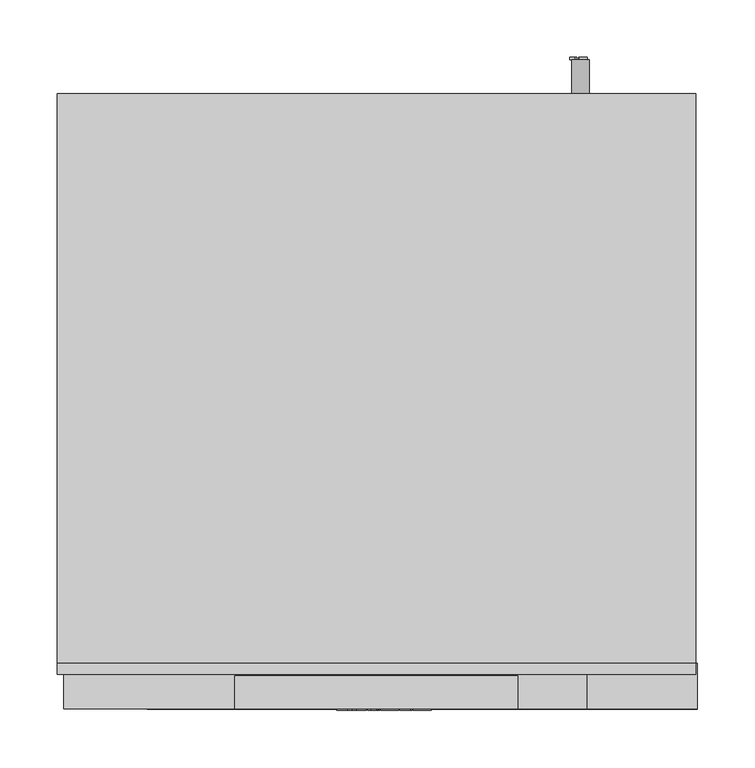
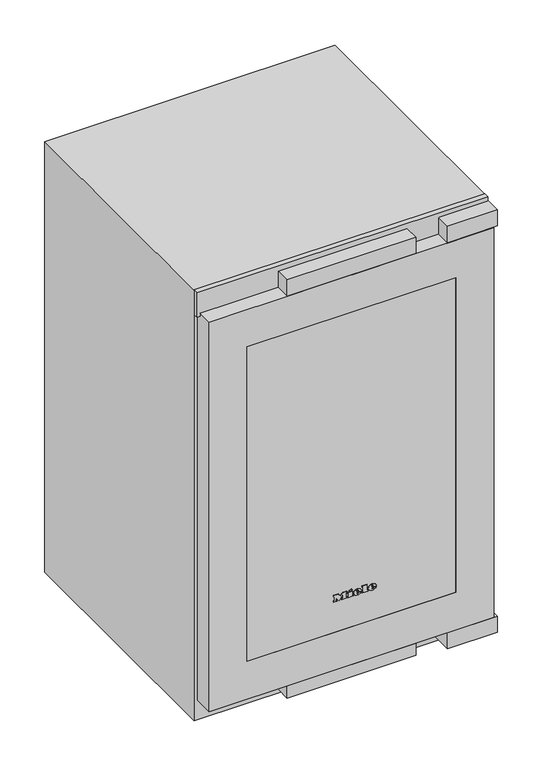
"""IFC4 building model written with IfcOpenShell, lengths in millimetres: proxy geometry, 12364290_EU1_KWT6422i-1 : 36642202_EU1_12364290_KWT6422i-1."""

from ifc_helpers import new_model, si_unit, point, frame, frame_2d, origin, place, context, project, spatial, polyline, circle_curve, ellipse_curve, trimmed, segment, composite_curve, outline, extrude, faceted_brep, source, transform, mapped, element, save
from ifc_brep_helpers import plane_surface, cylinder_surface, revolved_surface, extruded_surface, advanced_brep


def specialty_equipment_7821c6c4(model_context):
    return source(origin(), model_context, "Body", "SolidModel", [
        advanced_brep(
        [(38.5659113, -1.0, 182.5474288), (38.5659113, -1.0, 183.9109288), (47.5974113, -1.0, 183.9109288), (31.8834113, -1.0, 183.9109288), (35.5959113, -1.0, 179.3479288), (47.3679113, -1.0, 182.5474288), (43.2909113, -1.0, 182.5474288), (40.0779113, -1.0, 181.0354288), (38.5659113, -1.0, 185.6389288), (38.5659113, -1.0, 187.1104288), (40.8744113, -1.0, 187.1104288), (40.8744113, -1.0, 185.6389288), (38.5659113, 0.0, 182.5474288), (40.0779113, 0.0, 181.0354288), (43.2909113, 0.0, 182.5474288), (47.3679113, 0.0, 182.5474288), (35.5959113, 0.0, 179.3479288), (31.8834113, 0.0, 183.9109288), (47.5974113, 0.0, 183.9109288), (38.5659113, 0.0, 183.9109288), (38.5659113, 0.0, 185.6389288), (40.8744113, 0.0, 185.6389288), (40.8744113, 0.0, 187.1104288), (38.5659113, 0.0, 187.1104288)],
        [
            (0, 1),
            (1, 2),
            (2, 3, ellipse_curve(frame((39.7404113, -1.0, 183.9109288), z_axis=(0.0, -1.0, 0.0), x_axis=(-1.0, 0.0, 0.0)), 7.857, 6.4935)),
            (3, 4, circle_curve(frame((37.1079849, -1.0, 184.3699288), z_axis=(0.0, -1.0, 0.0), x_axis=(0.0, 0.0, -1.0)), 5.2446974)),
            (4, 5, circle_curve(frame((39.5831254, -1.0, 187.9339288), z_axis=(0.0, -1.0, 0.0), x_axis=(0.0, 0.0, -1.0)), 9.46664)),
            (5, 6),
            (6, 7, circle_curve(frame((40.737823, -1.0, 183.8029288), z_axis=(0.0, 1.0, 0.0), x_axis=(0.0, 0.0, -1.0)), 2.8450905)),
            (7, 0, circle_curve(frame((40.0779113, -1.0, 182.5474288), z_axis=(0.0, 1.0, 0.0), x_axis=(0.0, 0.0, -1.0)), 1.512)),
            (8, 9),
            (9, 10, circle_curve(frame((39.7201613, -1.0, 187.1104288), z_axis=(0.0, 1.0, 0.0), x_axis=(0.0, 0.0, -1.0)), 1.15425)),
            (10, 11),
            (11, 8),
            (12, 13, circle_curve(frame((40.0779113, 0.0, 182.5474288), z_axis=(0.0, -1.0, 0.0), x_axis=(0.0, 0.0, -1.0)), 1.512)),
            (13, 14, circle_curve(frame((40.737823, 0.0, 183.8029288), z_axis=(0.0, -1.0, 0.0), x_axis=(0.0, 0.0, -1.0)), 2.8450905)),
            (14, 15),
            (15, 16, circle_curve(frame((39.5831254, 0.0, 187.9339288), z_axis=(0.0, 1.0, 0.0), x_axis=(0.0, 0.0, -1.0)), 9.46664)),
            (16, 17, circle_curve(frame((37.1079849, 0.0, 184.3699288), z_axis=(0.0, 1.0, 0.0), x_axis=(0.0, 0.0, -1.0)), 5.2446974)),
            (17, 18, ellipse_curve(frame((39.7404113, 0.0, 183.9109288), z_axis=(0.0, 1.0, 0.0), x_axis=(-1.0, 0.0, 0.0)), 7.857, 6.4935)),
            (18, 19),
            (19, 12),
            (20, 21),
            (21, 22),
            (22, 23, circle_curve(frame((39.7201613, 0.0, 187.1104288), z_axis=(0.0, -1.0, 0.0), x_axis=(0.0, 0.0, -1.0)), 1.15425)),
            (23, 20),
            (0, 12),
            (19, 1),
            (18, 2),
            (5, 15),
            (14, 6),
            (17, 3),
            (13, 7),
            (16, 4),
            (8, 20),
            (23, 9),
            (22, 10),
            (21, 11),
        ],
        [
            plane_surface(frame((38.5659113, -1.0, 183.9109288), z_axis=(0.0, -1.0, 0.0), x_axis=(0.0, 0.0, 1.0))),
            plane_surface(frame((38.5659113, 0.0, 183.9109288), z_axis=(0.0, 1.0, 0.0), x_axis=(0.0, 0.0, -1.0))),
            plane_surface(frame((38.5659113, -1.0, 182.5474288), z_axis=(1.0, 0.0, 0.0), x_axis=(0.0, 1.0, 0.0))),
            plane_surface(frame((38.5659113, -1.0, 183.9109288), z_axis=(0.0, 0.0, -1.0), x_axis=(0.0, 1.0, 0.0))),
            plane_surface(frame((47.3679113, -1.0, 182.5474288), z_axis=(0.0, 0.0, 1.0), x_axis=(0.0, 1.0, 0.0))),
            extruded_surface(trimmed(ellipse_curve(frame((39.7404113, 1.0, 183.9109288), z_axis=(0.0, -1.0, 0.0), x_axis=(-1.0, 0.0, 0.0)), 7.857, 6.4935), [point((47.5974113, 1.0, 183.9109288))], [point((31.8834113, 1.0, 183.9109288))], True, "CARTESIAN"), (0.0, -1.0, 0.0), 1.0),
            revolved_surface(polyline([(40.737823, 0.0, 180.9578383), (40.737823, -1.0, 180.9578383)]), (40.737823, 0.0, 183.8029288), (0.0, 1.0, 0.0)),
            revolved_surface(polyline([(40.0779113, 0.0, 181.0354288), (40.0779113, -1.0, 181.0354288)]), (40.0779113, 0.0, 182.5474288), (0.0, 1.0, 0.0)),
            cylinder_surface(frame((37.1079849, 0.0, 184.3699288), z_axis=(0.0, -1.0, 0.0), x_axis=(0.0, 0.0, -1.0)), 5.2446974),
            cylinder_surface(frame((39.5831254, 0.0, 187.9339288), z_axis=(0.0, -1.0, 0.0), x_axis=(0.0, 0.0, -1.0)), 9.46664),
            plane_surface(frame((38.5659113, -1.0, 185.6389288), z_axis=(1.0, 0.0, 0.0), x_axis=(0.0, 1.0, 0.0))),
            revolved_surface(polyline([(39.7201613, 0.0, 185.9561788), (39.7201613, -1.0, 185.9561788)]), (39.7201613, 0.0, 187.1104288), (0.0, 1.0, 0.0)),
            plane_surface(frame((40.8744113, -1.0, 187.1104288), z_axis=(-1.0, 0.0, 0.0), x_axis=(0.0, 1.0, 0.0))),
            plane_surface(frame((40.8744113, -1.0, 185.6389288), z_axis=(0.0, 0.0, 1.0), x_axis=(0.0, 1.0, 0.0))),
        ],
        [
            (0, [[1, 2, 3, 4, 5, 6, 7, 8], [9, 10, 11, 12]]),
            (1, [[13, 14, 15, 16, 17, 18, 19, 20], [21, 22, 23, 24]]),
            (2, [[-1, 25, -20, 26]]),
            (3, [[-2, -26, -19, 27]]),
            (4, [[-6, 28, -15, 29]]),
            (5, [[-3, -27, -18, 30]]),
            (6, [[-7, -29, -14, 31]]),
            (7, [[-8, -31, -13, -25]]),
            (8, [[-4, -30, -17, 32]]),
            (9, [[-5, -32, -16, -28]]),
            (10, [[-9, 33, -24, 34]]),
            (11, [[-10, -34, -23, 35]]),
            (12, [[-11, -35, -22, 36]]),
            (13, [[-12, -36, -21, -33]]),
        ],
    ),
        advanced_brep(
        [(10.3914113, -1.0, 182.5474288), (10.3914113, -1.0, 183.9109288), (19.4229113, -1.0, 183.9109288), (3.7089113, -1.0, 183.9109288), (7.4214113, -1.0, 179.3479288), (19.1934113, -1.0, 182.5474288), (15.1164113, -1.0, 182.5474288), (11.9034113, -1.0, 181.0354288), (10.3914113, -1.0, 185.6389288), (10.3914113, -1.0, 187.1104288), (12.6999113, -1.0, 187.1104288), (12.6999113, -1.0, 185.6389288), (10.3914113, 0.0, 182.5474288), (11.9034113, 0.0, 181.0354288), (15.1164113, 0.0, 182.5474288), (19.1934113, 0.0, 182.5474288), (7.4214113, 0.0, 179.3479288), (3.7089113, 0.0, 183.9109288), (19.4229113, 0.0, 183.9109288), (10.3914113, 0.0, 183.9109288), (10.3914113, 0.0, 185.6389288), (12.6999113, 0.0, 185.6389288), (12.6999113, 0.0, 187.1104288), (10.3914113, 0.0, 187.1104288)],
        [
            (0, 1),
            (1, 2),
            (2, 3, ellipse_curve(frame((11.5659113, -1.0, 183.9109288), z_axis=(0.0, -1.0, 0.0), x_axis=(-1.0, 0.0, 0.0)), 7.857, 6.4935)),
            (3, 4, circle_curve(frame((8.9334849, -1.0, 184.3699288), z_axis=(0.0, -1.0, 0.0), x_axis=(0.0, 0.0, -1.0)), 5.2446974)),
            (4, 5, circle_curve(frame((11.4086254, -1.0, 187.9339288), z_axis=(0.0, -1.0, 0.0), x_axis=(0.0, 0.0, -1.0)), 9.46664)),
            (5, 6),
            (6, 7, circle_curve(frame((12.563323, -1.0, 183.8029288), z_axis=(0.0, 1.0, 0.0), x_axis=(0.0, 0.0, -1.0)), 2.8450905)),
            (7, 0, circle_curve(frame((11.9034113, -1.0, 182.5474288), z_axis=(0.0, 1.0, 0.0), x_axis=(0.0, 0.0, -1.0)), 1.512)),
            (8, 9),
            (9, 10, circle_curve(frame((11.5456613, -1.0, 187.1104288), z_axis=(0.0, 1.0, 0.0), x_axis=(0.0, 0.0, -1.0)), 1.15425)),
            (10, 11),
            (11, 8),
            (12, 13, circle_curve(frame((11.9034113, 0.0, 182.5474288), z_axis=(0.0, -1.0, 0.0), x_axis=(0.0, 0.0, -1.0)), 1.512)),
            (13, 14, circle_curve(frame((12.563323, 0.0, 183.8029288), z_axis=(0.0, -1.0, 0.0), x_axis=(0.0, 0.0, -1.0)), 2.8450905)),
            (14, 15),
            (15, 16, circle_curve(frame((11.4086254, 0.0, 187.9339288), z_axis=(0.0, 1.0, 0.0), x_axis=(0.0, 0.0, -1.0)), 9.46664)),
            (16, 17, circle_curve(frame((8.9334849, 0.0, 184.3699288), z_axis=(0.0, 1.0, 0.0), x_axis=(0.0, 0.0, -1.0)), 5.2446974)),
            (17, 18, ellipse_curve(frame((11.5659113, 0.0, 183.9109288), z_axis=(0.0, 1.0, 0.0), x_axis=(-1.0, 0.0, 0.0)), 7.857, 6.4935)),
            (18, 19),
            (19, 12),
            (20, 21),
            (21, 22),
            (22, 23, circle_curve(frame((11.5456613, 0.0, 187.1104288), z_axis=(0.0, -1.0, 0.0), x_axis=(0.0, 0.0, -1.0)), 1.15425)),
            (23, 20),
            (0, 12),
            (19, 1),
            (18, 2),
            (5, 15),
            (14, 6),
            (17, 3),
            (13, 7),
            (16, 4),
            (8, 20),
            (23, 9),
            (22, 10),
            (21, 11),
        ],
        [
            plane_surface(frame((10.3914113, -1.0, 183.9109288), z_axis=(0.0, -1.0, 0.0), x_axis=(0.0, 0.0, 1.0))),
            plane_surface(frame((10.3914113, 0.0, 183.9109288), z_axis=(0.0, 1.0, 0.0), x_axis=(0.0, 0.0, -1.0))),
            plane_surface(frame((10.3914113, -1.0, 182.5474288), z_axis=(1.0, 0.0, 0.0), x_axis=(0.0, 1.0, 0.0))),
            plane_surface(frame((10.3914113, -1.0, 183.9109288), z_axis=(0.0, 0.0, -1.0), x_axis=(0.0, 1.0, 0.0))),
            plane_surface(frame((19.1934113, -1.0, 182.5474288), z_axis=(0.0, 0.0, 1.0), x_axis=(0.0, 1.0, 0.0))),
            extruded_surface(trimmed(ellipse_curve(frame((11.5659113, 1.0, 183.9109288), z_axis=(0.0, -1.0, 0.0), x_axis=(-1.0, 0.0, 0.0)), 7.857, 6.4935), [point((19.4229113, 1.0, 183.9109288))], [point((3.7089113, 1.0, 183.9109288))], True, "CARTESIAN"), (0.0, -1.0, 0.0), 1.0),
            revolved_surface(polyline([(12.563323, 0.0, 180.9578383), (12.563323, -1.0, 180.9578383)]), (12.563323, 0.0, 183.8029288), (0.0, 1.0, 0.0)),
            revolved_surface(polyline([(11.9034113, 0.0, 181.0354288), (11.9034113, -1.0, 181.0354288)]), (11.9034113, 0.0, 182.5474288), (0.0, 1.0, 0.0)),
            cylinder_surface(frame((8.9334849, 0.0, 184.3699288), z_axis=(0.0, -1.0, 0.0), x_axis=(0.0, 0.0, -1.0)), 5.2446974),
            cylinder_surface(frame((11.4086254, 0.0, 187.9339288), z_axis=(0.0, -1.0, 0.0), x_axis=(0.0, 0.0, -1.0)), 9.46664),
            plane_surface(frame((10.3914113, -1.0, 185.6389288), z_axis=(1.0, 0.0, 0.0), x_axis=(0.0, 1.0, 0.0))),
            revolved_surface(polyline([(11.5456613, 0.0, 185.9561788), (11.5456613, -1.0, 185.9561788)]), (11.5456613, 0.0, 187.1104288), (0.0, 1.0, 0.0)),
            plane_surface(frame((12.6999113, -1.0, 187.1104288), z_axis=(-1.0, 0.0, 0.0), x_axis=(0.0, 1.0, 0.0))),
            plane_surface(frame((12.6999113, -1.0, 185.6389288), z_axis=(0.0, 0.0, 1.0), x_axis=(0.0, 1.0, 0.0))),
        ],
        [
            (0, [[1, 2, 3, 4, 5, 6, 7, 8], [9, 10, 11, 12]]),
            (1, [[13, 14, 15, 16, 17, 18, 19, 20], [21, 22, 23, 24]]),
            (2, [[-1, 25, -20, 26]]),
            (3, [[-2, -26, -19, 27]]),
            (4, [[-6, 28, -15, 29]]),
            (5, [[-3, -27, -18, 30]]),
            (6, [[-7, -29, -14, 31]]),
            (7, [[-8, -31, -13, -25]]),
            (8, [[-4, -30, -17, 32]]),
            (9, [[-5, -32, -16, -28]]),
            (10, [[-9, 33, -24, 34]]),
            (11, [[-10, -34, -23, 35]]),
            (12, [[-11, -35, -22, 36]]),
            (13, [[-12, -36, -21, -33]]),
        ],
    ),
        extrude(outline(polyline([(192.0514288, -4.3640887), (189.8644288, -3.3380887), (191.9974288, 1.2384113), (194.1844288, 0.2259113), (192.0514288, -4.3640887)])), frame((0.0, -1.0, 0.0), z_axis=(0.0, 1.0, 0.0), x_axis=(0.0, 0.0, 1.0)), (0.0, 0.0, 1.0), 1.0),
        extrude(outline(polyline([(189.5674288, -7.6985887), (187.1509288, -7.6985887), (187.1509288, -6.0920887), (181.6159288, -6.0920887), (181.6159288, -7.6985887), (179.3479288, -7.6985887), (179.3479288, 2.9529113), (181.6159288, 2.9529113), (181.6159288, 1.3869113), (189.5674288, 1.3869113), (189.5674288, -7.6985887)])), frame((0.0, -1.0, 0.0), z_axis=(0.0, 1.0, 0.0), x_axis=(0.0, 0.0, 1.0)), (0.0, 0.0, 1.0), 1.0),
        extrude(outline(polyline([(190.6474288, 20.1789113), (190.6474288, 21.7989113), (181.6159288, 21.7989113), (181.6159288, 20.1789113), (179.3479288, 20.1789113), (179.3479288, 31.1274113), (181.6159288, 31.1274113), (181.6159288, 29.4669113), (192.8479288, 29.4669113), (192.8479288, 20.1789113), (190.6474288, 20.1789113)])), frame((0.0, -1.0, 0.0), z_axis=(0.0, 1.0, 0.0), x_axis=(0.0, 0.0, 1.0)), (0.0, 0.0, 1.0), 1.0),
        extrude(outline(polyline([(190.6474288, -34.6040887), (190.6474288, -32.9705887), (181.6159288, -32.9705887), (181.6159288, -34.6040887), (179.3479288, -34.6040887), (179.3479288, -28.6640887), (181.6159288, -28.6640887), (181.6159288, -30.2840887), (187.3235535, -30.2840887), (179.3479288, -24.2495887), (187.6006511, -18.1880887), (181.6159288, -18.1880887), (181.6159288, -19.8485887), (179.3479288, -19.8485887), (179.3479288, -9.0755887), (181.6159288, -9.0755887), (181.6159288, -10.7900887), (190.6474288, -10.7900887), (190.6474288, -9.0755887), (192.8479288, -9.0755887), (192.8479288, -17.2970887), (187.7854288, -21.2390887), (192.8479288, -25.1945887), (192.8479288, -34.6040887), (190.6474288, -34.6040887)])), frame((0.0, -1.0, 0.0), z_axis=(0.0, 1.0, 0.0), x_axis=(0.0, 0.0, 1.0)), (0.0, 0.0, 1.0), 1.0),
        extrude(outline(polyline([(0.0, -5.0), (0.0, 0.0), (342.0, 0.0), (342.0, -5.0), (0.0, -5.0)])), frame((171.0, 49.1703709, 491.2940952), z_axis=(0.0, 0.25881904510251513, 0.9659258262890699), x_axis=(-1.0, 0.0, 0.0)), (0.0, 0.0, 1.0), 48.0),
        extrude(outline(composite_curve([segment(trimmed(circle_curve(frame_2d((52.0, 178.0)), 7.5), [point((52.0, 185.5))], [point((52.0, 170.5))], False, "CARTESIAN"), True, "CONTINUOUS"), segment(trimmed(circle_curve(frame_2d((52.0, 178.0)), 7.5), [point((52.0, 170.5))], [point((52.0, 185.5))], False, "CARTESIAN"), True, "CONTINUOUS")], self_intersect=False)), frame((0.0, 537.0, 0.0), z_axis=(0.0, 1.0, 0.0), x_axis=(0.0, 0.0, 1.0)), (0.0, 0.0, 1.0), 30.0),
        faceted_brep([(278.5, 537.0, 872.0), (-278.5, 537.0, 872.0), (-278.5, 40.0, 872.0), (278.5, 40.0, 872.0), (278.5, 537.0, 0.0), (278.5, 40.0, 0.0), (-278.5, 40.0, 0.0), (-278.5, 537.0, 0.0), (-232.5, 40.0, 782.0), (232.5, 40.0, 782.0), (232.5, 40.0, 80.0), (-232.5, 40.0, 80.0), (232.5, 440.0, 782.0), (-232.5, 440.0, 782.0), (-232.5, 440.0, 80.0), (232.5, 440.0, 80.0)], [[[0, 1, 2, 3]], [[4, 5, 6, 7]], [[1, 0, 4, 7]], [[2, 1, 7, 6]], [[3, 2, 6, 5], [8, 9, 10, 11]], [[0, 3, 5, 4]], [[12, 13, 14, 15]], [[13, 12, 9, 8]], [[14, 13, 8, 11]], [[15, 14, 11, 10]], [[12, 15, 10, 9]]]),
        extrude(outline(polyline([(232.5, 319.0), (-232.5, 319.0), (-232.5, 440.0), (232.5, 440.0), (232.5, 319.0)])), frame((0.0, 0.0, 80.0), z_axis=(0.0, 0.0, 1.0), x_axis=(1.0, 0.0, 0.0)), (0.0, 0.0, 1.0), 205.0),
        extrude(outline(polyline([(232.5, 440.0), (232.5, 380.0), (-232.5, 380.0), (-232.5, 440.0), (232.5, 440.0)])), frame((0.0, 0.0, 354.9519517), z_axis=(0.0, 0.0, 1.0), x_axis=(1.0, 0.0, 0.0)), (0.0, 0.0, 1.0), 119.0480483),
        extrude(outline(polyline([(380.0, 634.0), (380.0, 752.0), (40.0, 752.0), (40.0, 782.0), (440.0, 782.0), (440.0, 634.0), (380.0, 634.0)])), frame((-232.5, 0.0, 0.0), z_axis=(1.0, 0.0, 0.0), x_axis=(0.0, 1.0, 0.0)), (0.0, 0.0, 1.0), 465.0),
        extrude(outline(polyline([(47.2618945, 184.0941573), (57.3075256, 184.0941573), (57.3075256, 176.87386), (56.0518217, 176.87386), (56.0518217, 182.8384535), (53.069525, 182.8384535), (53.069525, 177.187786), (51.8138211, 177.187786), (51.8138211, 182.8384535), (48.5175984, 182.8384535), (48.5175984, 176.7168971), (47.2618945, 176.7168971), (47.2618945, 184.0941573)])), frame((0.0, 567.0, 0.0), z_axis=(0.0, 1.0, 0.0), x_axis=(0.0, 0.0, 1.0)), (0.0, 0.0, 1.0), 2.0),
        extrude(outline(polyline([(47.2618945, 174.8333412), (57.3075256, 174.8333412), (57.3075256, 173.5776374), (48.5175984, 173.5776374), (48.5175984, 168.5548219), (47.2618945, 168.5548219), (47.2618945, 174.8333412)])), frame((0.0, 567.0, 0.0), z_axis=(0.0, 1.0, 0.0), x_axis=(0.0, 0.0, 1.0)), (0.0, 0.0, 1.0), 2.0),
        extrude(outline(polyline([(-278.5, 40.0), (278.5, 40.0), (278.5, 30.0), (-278.5, 30.0), (-278.5, 40.0)])), frame((0.0, 0.0, 823.0), z_axis=(0.0, 0.0, 1.0), x_axis=(1.0, 0.0, 0.0)), (0.0, 0.0, 1.0), 50.0),
        extrude(outline(polyline([(10.0, 47.0438353), (-10.0, 47.0438353), (-10.0, 380.0), (10.0, 380.0), (10.0, 47.0438353)])), frame((0.0, 0.0, 373.0), z_axis=(0.0, 0.0, 1.0), x_axis=(1.0, 0.0, 0.0)), (0.0, 0.0, 1.0), 10.0),
        extrude(outline(polyline([(-40.625, 47.0438353), (-60.625, 47.0438353), (-60.625, 380.0), (-40.625, 380.0), (-40.625, 47.0438353)])), frame((0.0, 0.0, 373.0), z_axis=(0.0, 0.0, 1.0), x_axis=(1.0, 0.0, 0.0)), (0.0, 0.0, 1.0), 10.0),
        extrude(outline(polyline([(-91.25, 47.0438353), (-111.25, 47.0438353), (-111.25, 380.0), (-91.25, 380.0), (-91.25, 47.0438353)])), frame((0.0, 0.0, 373.0), z_axis=(0.0, 0.0, 1.0), x_axis=(1.0, 0.0, 0.0)), (0.0, 0.0, 1.0), 10.0),
        extrude(outline(polyline([(-141.875, 47.0438353), (-161.875, 47.0438353), (-161.875, 380.0), (-141.875, 380.0), (-141.875, 47.0438353)])), frame((0.0, 0.0, 373.0), z_axis=(0.0, 0.0, 1.0), x_axis=(1.0, 0.0, 0.0)), (0.0, 0.0, 1.0), 10.0),
        extrude(outline(polyline([(-192.5, 47.0438353), (-212.5, 47.0438353), (-212.5, 380.0), (-192.5, 380.0), (-192.5, 47.0438353)])), frame((0.0, 0.0, 373.0), z_axis=(0.0, 0.0, 1.0), x_axis=(1.0, 0.0, 0.0)), (0.0, 0.0, 1.0), 10.0),
        extrude(outline(polyline([(60.625, 47.0438353), (40.625, 47.0438353), (40.625, 380.0), (60.625, 380.0), (60.625, 47.0438353)])), frame((0.0, 0.0, 373.0), z_axis=(0.0, 0.0, 1.0), x_axis=(1.0, 0.0, 0.0)), (0.0, 0.0, 1.0), 10.0),
        extrude(outline(polyline([(111.25, 47.0438353), (91.25, 47.0438353), (91.25, 380.0), (111.25, 380.0), (111.25, 47.0438353)])), frame((0.0, 0.0, 373.0), z_axis=(0.0, 0.0, 1.0), x_axis=(1.0, 0.0, 0.0)), (0.0, 0.0, 1.0), 10.0),
        extrude(outline(polyline([(161.875, 47.0438353), (141.875, 47.0438353), (141.875, 380.0), (161.875, 380.0), (161.875, 47.0438353)])), frame((0.0, 0.0, 373.0), z_axis=(0.0, 0.0, 1.0), x_axis=(1.0, 0.0, 0.0)), (0.0, 0.0, 1.0), 10.0),
        extrude(outline(polyline([(212.5, 47.0438353), (192.5, 47.0438353), (192.5, 380.0), (212.5, 380.0), (212.5, 47.0438353)])), frame((0.0, 0.0, 373.0), z_axis=(0.0, 0.0, 1.0), x_axis=(1.0, 0.0, 0.0)), (0.0, 0.0, 1.0), 10.0),
        extrude(outline(polyline([(10.0, 47.0438353), (-10.0, 47.0438353), (-10.0, 380.0), (10.0, 380.0), (10.0, 47.0438353)])), frame((0.0, 0.0, 654.0), z_axis=(0.0, 0.0, 1.0), x_axis=(1.0, 0.0, 0.0)), (0.0, 0.0, 1.0), 10.0),
        extrude(outline(polyline([(-40.625, 47.0438353), (-60.625, 47.0438353), (-60.625, 380.0), (-40.625, 380.0), (-40.625, 47.0438353)])), frame((0.0, 0.0, 654.0), z_axis=(0.0, 0.0, 1.0), x_axis=(1.0, 0.0, 0.0)), (0.0, 0.0, 1.0), 10.0),
        extrude(outline(polyline([(-91.25, 47.0438353), (-111.25, 47.0438353), (-111.25, 380.0), (-91.25, 380.0), (-91.25, 47.0438353)])), frame((0.0, 0.0, 654.0), z_axis=(0.0, 0.0, 1.0), x_axis=(1.0, 0.0, 0.0)), (0.0, 0.0, 1.0), 10.0),
        extrude(outline(polyline([(-141.875, 47.0438353), (-161.875, 47.0438353), (-161.875, 380.0), (-141.875, 380.0), (-141.875, 47.0438353)])), frame((0.0, 0.0, 654.0), z_axis=(0.0, 0.0, 1.0), x_axis=(1.0, 0.0, 0.0)), (0.0, 0.0, 1.0), 10.0),
        extrude(outline(polyline([(-192.5, 47.0438353), (-212.5, 47.0438353), (-212.5, 380.0), (-192.5, 380.0), (-192.5, 47.0438353)])), frame((0.0, 0.0, 654.0), z_axis=(0.0, 0.0, 1.0), x_axis=(1.0, 0.0, 0.0)), (0.0, 0.0, 1.0), 10.0),
        extrude(outline(polyline([(60.625, 47.0438353), (40.625, 47.0438353), (40.625, 380.0), (60.625, 380.0), (60.625, 47.0438353)])), frame((0.0, 0.0, 654.0), z_axis=(0.0, 0.0, 1.0), x_axis=(1.0, 0.0, 0.0)), (0.0, 0.0, 1.0), 10.0),
        extrude(outline(polyline([(111.25, 47.0438353), (91.25, 47.0438353), (91.25, 380.0), (111.25, 380.0), (111.25, 47.0438353)])), frame((0.0, 0.0, 654.0), z_axis=(0.0, 0.0, 1.0), x_axis=(1.0, 0.0, 0.0)), (0.0, 0.0, 1.0), 10.0),
        extrude(outline(polyline([(161.875, 47.0438353), (141.875, 47.0438353), (141.875, 380.0), (161.875, 380.0), (161.875, 47.0438353)])), frame((0.0, 0.0, 654.0), z_axis=(0.0, 0.0, 1.0), x_axis=(1.0, 0.0, 0.0)), (0.0, 0.0, 1.0), 10.0),
        extrude(outline(polyline([(212.5, 47.0438353), (192.5, 47.0438353), (192.5, 380.0), (212.5, 380.0), (212.5, 47.0438353)])), frame((0.0, 0.0, 654.0), z_axis=(0.0, 0.0, 1.0), x_axis=(1.0, 0.0, 0.0)), (0.0, 0.0, 1.0), 10.0),
        extrude(outline(polyline([(10.0, 44.8678355), (-10.0, 44.8678355), (-10.0, 319.0), (10.0, 319.0), (10.0, 44.8678355)])), frame((0.0, 0.0, 97.0), z_axis=(0.0, 0.0, 1.0), x_axis=(1.0, 0.0, 0.0)), (0.0, 0.0, 1.0), 10.0),
        extrude(outline(polyline([(-40.625, 44.8678355), (-60.625, 44.8678355), (-60.625, 319.0), (-40.625, 319.0), (-40.625, 44.8678355)])), frame((0.0, 0.0, 97.0), z_axis=(0.0, 0.0, 1.0), x_axis=(1.0, 0.0, 0.0)), (0.0, 0.0, 1.0), 10.0),
        extrude(outline(polyline([(-91.25, 44.8678355), (-111.25, 44.8678355), (-111.25, 319.0), (-91.25, 319.0), (-91.25, 44.8678355)])), frame((0.0, 0.0, 97.0), z_axis=(0.0, 0.0, 1.0), x_axis=(1.0, 0.0, 0.0)), (0.0, 0.0, 1.0), 10.0),
        extrude(outline(polyline([(-141.875, 44.8678355), (-161.875, 44.8678355), (-161.875, 319.0), (-141.875, 319.0), (-141.875, 44.8678355)])), frame((0.0, 0.0, 97.0), z_axis=(0.0, 0.0, 1.0), x_axis=(1.0, 0.0, 0.0)), (0.0, 0.0, 1.0), 10.0),
        extrude(outline(polyline([(-192.5, 44.8678355), (-212.5, 44.8678355), (-212.5, 319.0), (-192.5, 319.0), (-192.5, 44.8678355)])), frame((0.0, 0.0, 97.0), z_axis=(0.0, 0.0, 1.0), x_axis=(1.0, 0.0, 0.0)), (0.0, 0.0, 1.0), 10.0),
        extrude(outline(polyline([(60.625, 44.8678355), (40.625, 44.8678355), (40.625, 319.0), (60.625, 319.0), (60.625, 44.8678355)])), frame((0.0, 0.0, 97.0), z_axis=(0.0, 0.0, 1.0), x_axis=(1.0, 0.0, 0.0)), (0.0, 0.0, 1.0), 10.0),
        extrude(outline(polyline([(111.25, 44.8678355), (91.25, 44.8678355), (91.25, 319.0), (111.25, 319.0), (111.25, 44.8678355)])), frame((0.0, 0.0, 97.0), z_axis=(0.0, 0.0, 1.0), x_axis=(1.0, 0.0, 0.0)), (0.0, 0.0, 1.0), 10.0),
        extrude(outline(polyline([(161.875, 44.8678355), (141.875, 44.8678355), (141.875, 319.0), (161.875, 319.0), (161.875, 44.8678355)])), frame((0.0, 0.0, 97.0), z_axis=(0.0, 0.0, 1.0), x_axis=(1.0, 0.0, 0.0)), (0.0, 0.0, 1.0), 10.0),
        extrude(outline(polyline([(212.5, 44.8678355), (192.5, 44.8678355), (192.5, 319.0), (212.5, 319.0), (212.5, 44.8678355)])), frame((0.0, 0.0, 97.0), z_axis=(0.0, 0.0, 1.0), x_axis=(1.0, 0.0, 0.0)), (0.0, 0.0, 1.0), 10.0),
        extrude(outline(polyline([(50.0, 477.0), (50.0, 487.0), (66.0769515, 547.0), (440.0, 547.0), (440.0, 477.0), (50.0, 477.0)])), frame((-232.5, 0.0, 0.0), z_axis=(1.0, 0.0, 0.0), x_axis=(0.0, 1.0, 0.0)), (0.0, 0.0, 1.0), 465.0),
        extrude(outline(polyline([(50.0, 672.3781397), (50.0, 646.0), (40.0, 646.0), (40.0, 649.0), (40.8925608, 649.0), (40.8925608, 668.7661331), (40.0, 668.7661331), (40.0, 672.3781397), (50.0, 672.3781397)])), frame((-232.5, 0.0, 0.0), z_axis=(1.0, 0.0, 0.0), x_axis=(0.0, 1.0, 0.0)), (0.0, 0.0, 1.0), 465.0),
        extrude(outline(polyline([(50.0, 391.3781397), (50.0, 365.0), (40.0, 365.0), (40.0, 368.0), (40.8925608, 368.0), (40.8925608, 387.7661331), (40.0, 387.7661331), (40.0, 391.3781397), (50.0, 391.3781397)])), frame((-232.5, 0.0, 0.0), z_axis=(1.0, 0.0, 0.0), x_axis=(0.0, 1.0, 0.0)), (0.0, 0.0, 1.0), 465.0),
        extrude(outline(polyline([(50.0, 115.3781397), (50.0, 89.0), (40.0, 89.0), (40.0, 92.0), (40.8925608, 92.0), (40.8925608, 111.7661331), (40.0, 111.7661331), (40.0, 115.3781397), (50.0, 115.3781397)])), frame((-232.5, 0.0, 0.0), z_axis=(1.0, 0.0, 0.0), x_axis=(0.0, 1.0, 0.0)), (0.0, 0.0, 1.0), 465.0),
        extrude(outline(polyline([(41.0, 273.0), (830.0, 273.0), (830.0, -273.0), (41.0, -273.0), (41.0, 273.0)]), holes=[polyline([(754.0, 200.0), (117.0, 200.0), (117.0, -200.0), (754.0, -200.0), (754.0, 200.0)])]), frame((0.0, 0.0, 0.0), z_axis=(0.0, 1.0, 0.0), x_axis=(0.0, 0.0, 1.0)), (0.0, 0.0, 1.0), 40.0),
        extrude(outline(polyline([(-200.0, 40.0), (200.0, 40.0), (200.0, 0.0), (-200.0, 0.0), (-200.0, 40.0)])), frame((0.0, 0.0, 117.0), z_axis=(0.0, 0.0, 1.0), x_axis=(1.0, 0.0, 0.0)), (0.0, 0.0, 1.0), 637.0),
        extrude(outline(polyline([(184.0, 40.0), (280.0, 40.0), (280.0, 0.0), (184.0, 0.0), (184.0, 40.0)])), frame((0.0, 0.0, 831.0), z_axis=(0.0, 0.0, 1.0), x_axis=(1.0, 0.0, 0.0)), (0.0, 0.0, 1.0), 33.0),
        extrude(outline(polyline([(184.0, 40.0), (280.0, 40.0), (280.0, 0.0), (184.0, 0.0), (184.0, 40.0)])), frame((0.0, 0.0, 8.0), z_axis=(0.0, 0.0, 1.0), x_axis=(1.0, 0.0, 0.0)), (0.0, 0.0, 1.0), 33.0),
        extrude(outline(polyline([(123.5, 0.0), (-123.5, 0.0), (-123.5, 29.0), (123.5, 29.0), (123.5, 0.0)])), frame((0.0, 0.0, 830.0), z_axis=(0.0, 0.0, 1.0), x_axis=(1.0, 0.0, 0.0)), (0.0, 0.0, 1.0), 33.0),
        extrude(outline(polyline([(123.5, 0.0), (-123.5, 0.0), (-123.5, 29.0), (123.5, 29.0), (123.5, 0.0)])), frame((0.0, 0.0, 16.0), z_axis=(0.0, 0.0, 1.0), x_axis=(1.0, 0.0, 0.0)), (0.0, 0.0, 1.0), 25.0),
    ])


if __name__ == "__main__":
    model = new_model("IFC4")
    model_context = context("Model", 3, world=origin())
    ifc_project = project(units=[si_unit("LENGTHUNIT", "METRE", prefix="MILLI")], contexts=[model_context])
    site = spatial("IfcSite", under=ifc_project)
    building = spatial("IfcBuilding", under=site)
    placement = place(None, origin())
    specialty_equipment_shape = specialty_equipment_7821c6c4(model_context)
    element("IfcBuildingElementProxy", 1, Name="12364290_EU1_KWT6422i-1 : 36642202_EU1_12364290_KWT6422i-1", ObjectType="12364290_EU1_KWT6422i-1 : 36642202_EU1_12364290_KWT6422i-1", at=placement, inside=building, context=model_context, shape_type="MappedRepresentation", body=[
        mapped(specialty_equipment_shape, transform((0.0, 0.0, 0.0), x_axis=(1.0, 0.0, 0.0), y_axis=(0.0, 1.0, 0.0), z_axis=(0.0, 0.0, 1.0))),
    ])
    save(model, "model.ifc")
